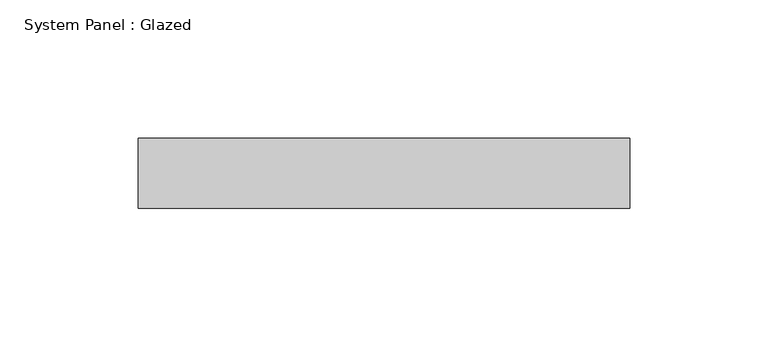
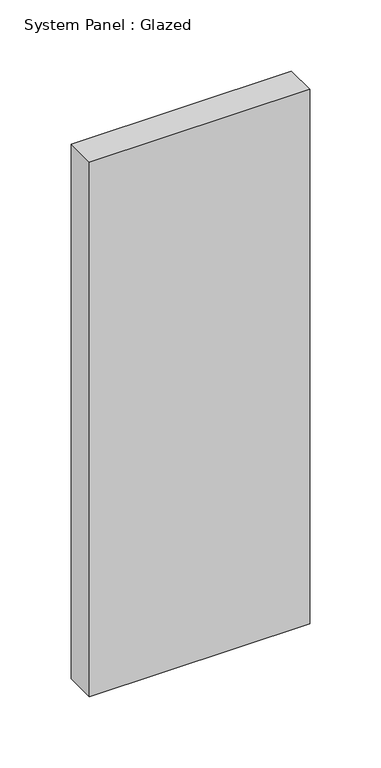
"""IFC4 building model written with IfcOpenShell, lengths in millimetres: plate geometry, System Panel : Glazed."""

from ifc_helpers import new_model, si_unit, origin, origin_with_axes, place, context, project, spatial, polyline, outline, extrude, source, transform, mapped, element, save


def system_panel_glazed_571c87ee(model_context):
    return source(origin(), model_context, "Body", "SweptSolid", [
        extrude(outline(polyline([(89.0314755, 19.05), (-89.0314755, 19.05), (-89.0314755, 44.45), (89.0314755, 44.45), (89.0314755, 19.05)])), origin_with_axes(), (0.0, 0.0, 1.0), 457.2),
    ])


if __name__ == "__main__":
    model = new_model("IFC4")
    model_context = context("Model", 3, world=origin())
    ifc_project = project(units=[si_unit("LENGTHUNIT", "METRE", prefix="MILLI")], contexts=[model_context])
    site = spatial("IfcSite", under=ifc_project)
    building = spatial("IfcBuilding", under=site)
    placement = place(None, origin())
    system_panel_glazed_shape = system_panel_glazed_571c87ee(model_context)
    element("IfcPlate", 1, ObjectType="System Panel : Glazed", at=placement, inside=building, context=model_context, shape_type="MappedRepresentation", body=[
        mapped(system_panel_glazed_shape, transform((0.0, 0.0, 0.0), x_axis=(1.0, 0.0, 0.0), y_axis=(0.0, 1.0, 0.0), z_axis=(0.0, 0.0, 1.0))),
    ])
    save(model, "model.ifc")
